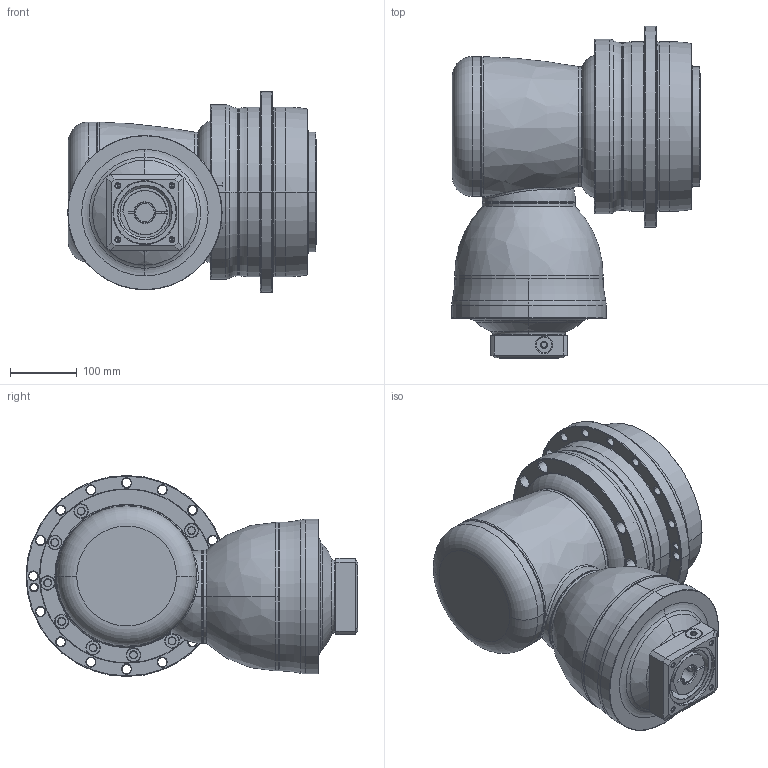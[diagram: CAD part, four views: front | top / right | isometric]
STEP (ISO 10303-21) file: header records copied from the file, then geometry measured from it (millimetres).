
FILE_DESCRIPTION((''),'2;1');
FILE_NAME('AHKB255_3ST_28-P0409600101_ASM','2016-12-01T',('d01943'),(''),'PRO/ENGINEER BY PARAMETRIC TECHNOLOGY CORPORATION, 2008410','PRO/ENGINEER BY PARAMETRIC TECHNOLOGY CORPORATION, 2008410','');
FILE_SCHEMA(('CONFIG_CONTROL_DESIGN'));
Length unit declared in the file: millimetre
Products named in the file (12): P1008600002; P1802700001; P0278700003; P0359700003; P1315600001; P1007600001; P1317600101; P0409600101; P0503600010; P0912501001; 21711418017; AHKB255_3ST_28-P0409600101_ASM
Assembly tree (11 placements, depth 2):
  AHKB255_3ST_28-P0409600101_ASM
    P1008600002
    P1802700001
    P0278700003
    P0359700003
    P1315600001
    P1007600001
    P1317600101
    P0409600101
    P0503600010
    P0912501001
    21711418017
Bounding box: 373.5 x 498.5 x 302 mm (x, y, z)
Volume: 16294852.3 mm3; surface area: 1305084.2 mm2
Topology: 12 solids, 12 shells, 1007 faces, 2295 edges, 1324 vertices
Faces by surface type: cylinder 368, cone 338, plane 136, torus 126, bspline 37, sphere 2
Entity records: 34729 total; most frequent: CARTESIAN_POINT 11543, DIRECTION 5340, ORIENTED_EDGE 4434, AXIS2_PLACEMENT_3D 2281, EDGE_CURVE 2217, VERTEX_POINT 1324, CIRCLE 1288, EDGE_LOOP 1187
